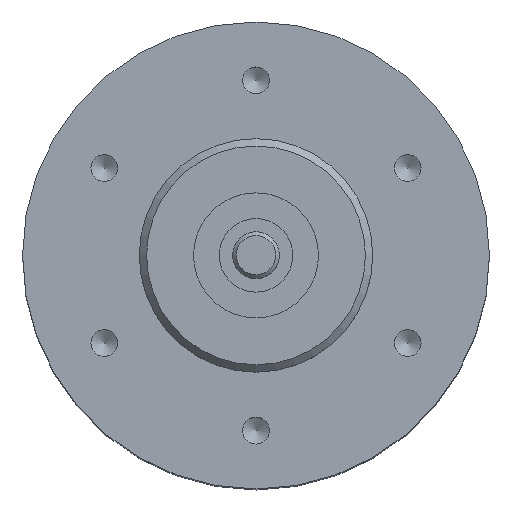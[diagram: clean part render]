
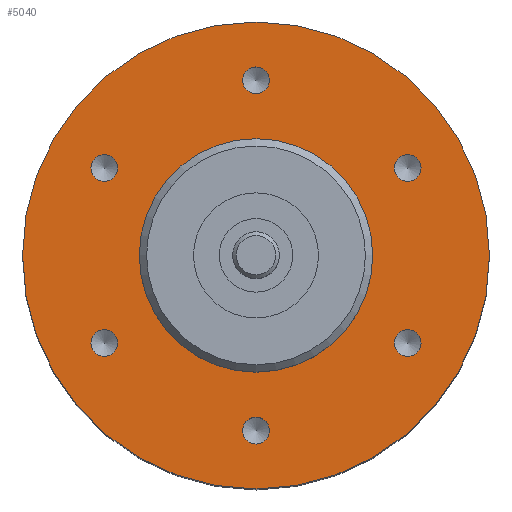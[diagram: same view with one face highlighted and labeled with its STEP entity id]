
A CAD part, top view. The second image highlights one B-rep face of the part: STEP entity #5040.
In plain terms, the highlighted planar face has unit normal (0, 0, 1).
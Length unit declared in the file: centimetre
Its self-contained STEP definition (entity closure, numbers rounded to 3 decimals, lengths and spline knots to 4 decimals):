
#1742=PLANE('',#5348);
#1964=CIRCLE('',#5301,0.1825);
#1966=CIRCLE('',#5305,0.1825);
#1968=CIRCLE('',#5309,0.1825);
#1970=CIRCLE('',#5313,0.1825);
#1972=CIRCLE('',#5317,0.1825);
#1974=CIRCLE('',#5321,0.1825);
#1988=CIRCLE('',#5347,3.175);
#1989=CIRCLE('',#5349,1.5875);
#2243=EDGE_CURVE('',#4232,#4232,#1964,.T.);
#2245=EDGE_CURVE('',#4235,#4235,#1966,.T.);
#2247=EDGE_CURVE('',#4238,#4238,#1968,.T.);
#2249=EDGE_CURVE('',#4241,#4241,#1970,.T.);
#2251=EDGE_CURVE('',#4244,#4244,#1972,.T.);
#2253=EDGE_CURVE('',#4247,#4247,#1974,.T.);
#2267=EDGE_CURVE('',#4261,#4261,#1988,.T.);
#2268=EDGE_CURVE('',#4262,#4262,#1989,.T.);
#2812=ORIENTED_EDGE('',*,*,#2243,.T.);
#2813=ORIENTED_EDGE('',*,*,#2245,.T.);
#2814=ORIENTED_EDGE('',*,*,#2247,.T.);
#2815=ORIENTED_EDGE('',*,*,#2249,.T.);
#2816=ORIENTED_EDGE('',*,*,#2251,.T.);
#2817=ORIENTED_EDGE('',*,*,#2253,.T.);
#2818=ORIENTED_EDGE('',*,*,#2268,.F.);
#2819=ORIENTED_EDGE('',*,*,#2267,.T.);
#3868=EDGE_LOOP('',(#2812));
#3869=EDGE_LOOP('',(#2813));
#3870=EDGE_LOOP('',(#2814));
#3871=EDGE_LOOP('',(#2815));
#3872=EDGE_LOOP('',(#2816));
#3873=EDGE_LOOP('',(#2817));
#3874=EDGE_LOOP('',(#2818));
#3875=EDGE_LOOP('',(#2819));
#4232=VERTEX_POINT('',#5881);
#4235=VERTEX_POINT('',#5888);
#4238=VERTEX_POINT('',#5895);
#4241=VERTEX_POINT('',#5902);
#4244=VERTEX_POINT('',#5909);
#4247=VERTEX_POINT('',#5916);
#4261=VERTEX_POINT('',#5956);
#4262=VERTEX_POINT('',#5959);
#4660=FACE_BOUND('',#3868,.T.);
#4661=FACE_BOUND('',#3869,.T.);
#4662=FACE_BOUND('',#3870,.T.);
#4663=FACE_BOUND('',#3871,.T.);
#4664=FACE_BOUND('',#3872,.T.);
#4665=FACE_BOUND('',#3873,.T.);
#4666=FACE_BOUND('',#3874,.T.);
#4667=FACE_BOUND('',#3875,.T.);
#5040=ADVANCED_FACE('',(#4660,#4661,#4662,#4663,#4664,#4665,#4666,#4667),
#1742,.T.);
#5301=AXIS2_PLACEMENT_3D('',#5880,#7267,#7268);
#5305=AXIS2_PLACEMENT_3D('',#5887,#7275,#7276);
#5309=AXIS2_PLACEMENT_3D('',#5894,#7283,#7284);
#5313=AXIS2_PLACEMENT_3D('',#5901,#7291,#7292);
#5317=AXIS2_PLACEMENT_3D('',#5908,#7299,#7300);
#5321=AXIS2_PLACEMENT_3D('',#5915,#7307,#7308);
#5347=AXIS2_PLACEMENT_3D('',#5955,#7353,#7354);
#5348=AXIS2_PLACEMENT_3D('',#5957,#7355,$);
#5349=AXIS2_PLACEMENT_3D('',#5958,#7356,#7357);
#5880=CARTESIAN_POINT('',(2.0622,1.1906,0.762));
#5881=CARTESIAN_POINT('',(2.0622,1.3731,0.762));
#5887=CARTESIAN_POINT('',(2.0622,-1.1906,0.762));
#5888=CARTESIAN_POINT('',(2.0622,-1.0081,0.762));
#5894=CARTESIAN_POINT('',(0.,-2.3813,0.762));
#5895=CARTESIAN_POINT('',(0.,-2.1988,0.762));
#5901=CARTESIAN_POINT('',(-2.0622,-1.1906,0.762));
#5902=CARTESIAN_POINT('',(-2.0622,-1.0081,0.762));
#5908=CARTESIAN_POINT('',(-2.0622,1.1906,0.762));
#5909=CARTESIAN_POINT('',(-2.0622,1.3731,0.762));
#5915=CARTESIAN_POINT('',(0.,2.3813,0.762));
#5916=CARTESIAN_POINT('',(0.,2.5637,0.762));
#5955=CARTESIAN_POINT('',(0.,0.,0.762));
#5956=CARTESIAN_POINT('',(0.,3.175,0.762));
#5957=CARTESIAN_POINT('',(0.,2.3813,0.762));
#5958=CARTESIAN_POINT('',(0.,0.,0.762));
#5959=CARTESIAN_POINT('',(0.,1.5875,0.762));
#7267=DIRECTION('',(0.,0.,-1.));
#7268=DIRECTION('',(0.,0.182,0.));
#7275=DIRECTION('',(0.,0.,-1.));
#7276=DIRECTION('',(0.,0.182,0.));
#7283=DIRECTION('',(0.,0.,-1.));
#7284=DIRECTION('',(0.,0.182,0.));
#7291=DIRECTION('',(0.,0.,-1.));
#7292=DIRECTION('',(0.,0.182,0.));
#7299=DIRECTION('',(0.,0.,-1.));
#7300=DIRECTION('',(0.,0.182,0.));
#7307=DIRECTION('',(0.,0.,-1.));
#7308=DIRECTION('',(0.,0.182,0.));
#7353=DIRECTION('',(0.,0.,1.));
#7354=DIRECTION('',(0.,3.175,0.));
#7355=DIRECTION('',(0.,0.,1.));
#7356=DIRECTION('',(0.,0.,1.));
#7357=DIRECTION('',(0.,1.588,0.));
